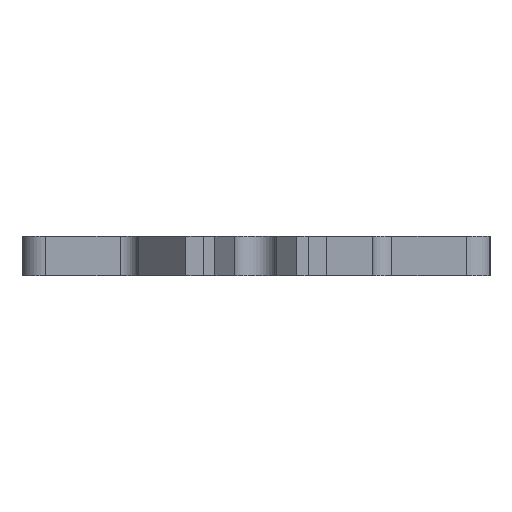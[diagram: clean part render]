
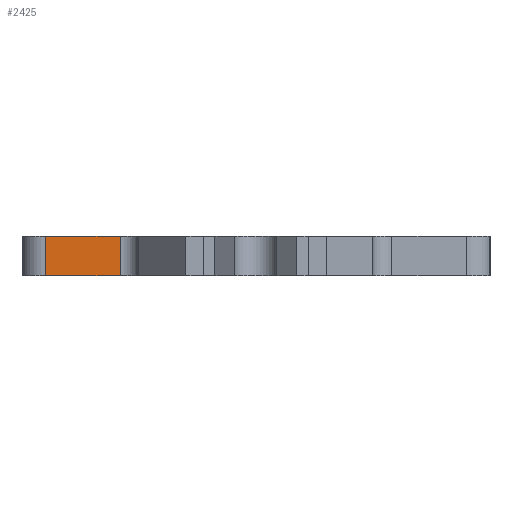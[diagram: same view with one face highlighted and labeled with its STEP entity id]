
A CAD part, left-side view. The second image highlights one B-rep face of the part: STEP entity #2425.
In plain terms, the highlighted planar face has unit normal (-1, 0, 0).
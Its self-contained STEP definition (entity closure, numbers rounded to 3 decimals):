
#228=FACE_OUTER_BOUND('',#352,.T.);
#352=EDGE_LOOP('',(#2014,#2015,#2016,#2017));
#406=LINE('',#3404,#685);
#613=LINE('',#3945,#892);
#614=LINE('',#3948,#893);
#615=LINE('',#3949,#894);
#685=VECTOR('',#2709,10.);
#892=VECTOR('',#3218,10.);
#893=VECTOR('',#3221,10.);
#894=VECTOR('',#3222,10.);
#968=VERTEX_POINT('',#3401);
#969=VERTEX_POINT('',#3403);
#1152=VERTEX_POINT('',#3943);
#1153=VERTEX_POINT('',#3947);
#1208=EDGE_CURVE('',#968,#969,#406,.T.);
#1479=EDGE_CURVE('',#968,#1152,#613,.T.);
#1480=EDGE_CURVE('',#1153,#1152,#614,.T.);
#1481=EDGE_CURVE('',#969,#1153,#615,.T.);
#2014=ORIENTED_EDGE('',*,*,#1208,.F.);
#2015=ORIENTED_EDGE('',*,*,#1479,.T.);
#2016=ORIENTED_EDGE('',*,*,#1480,.F.);
#2017=ORIENTED_EDGE('',*,*,#1481,.F.);
#2312=PLANE('',#2630);
#2425=ADVANCED_FACE('',(#228),#2312,.T.);
#2630=AXIS2_PLACEMENT_3D('',#3946,#3219,#3220);
#2709=DIRECTION('',(0.,-1.,0.));
#3218=DIRECTION('',(0.,0.,-1.));
#3219=DIRECTION('center_axis',(-1.,0.,0.));
#3220=DIRECTION('ref_axis',(0.,1.,0.));
#3221=DIRECTION('',(0.,1.,0.));
#3222=DIRECTION('',(0.,0.,-1.));
#3401=CARTESIAN_POINT('',(-124.5,9.,0.));
#3403=CARTESIAN_POINT('',(-124.5,5.8,0.));
#3404=CARTESIAN_POINT('',(-124.5,9.,0.));
#3943=CARTESIAN_POINT('',(-124.5,9.,-1.7));
#3945=CARTESIAN_POINT('',(-124.5,9.,0.));
#3946=CARTESIAN_POINT('Origin',(-124.5,5.8,0.));
#3947=CARTESIAN_POINT('',(-124.5,5.8,-1.7));
#3948=CARTESIAN_POINT('',(-124.5,9.,-1.7));
#3949=CARTESIAN_POINT('',(-124.5,5.8,0.));
